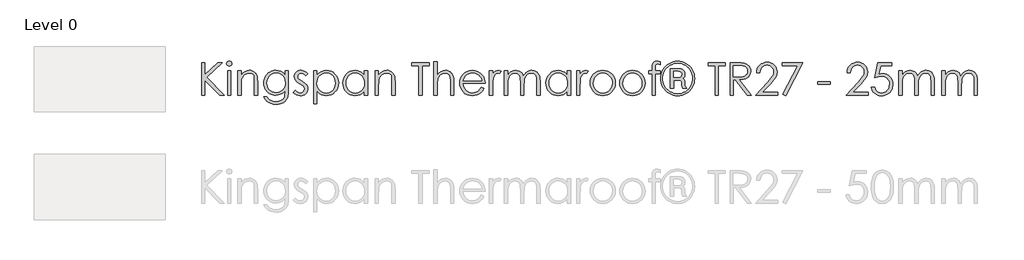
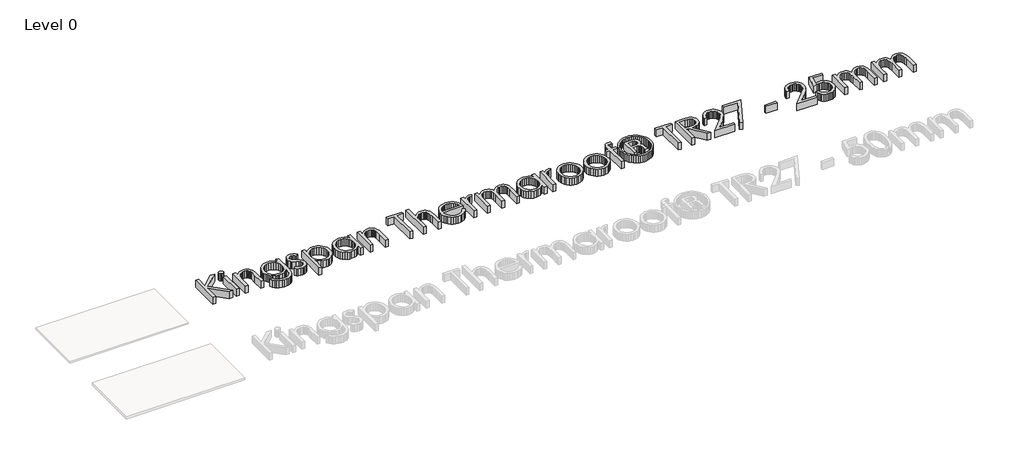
# One storey, part 12 of 12: 1 proxy.
"""IFC4 building model written with IfcOpenShell, lengths in millimetres."""

import ifcopenshell
import ifcopenshell.guid

model = None  # the IFC model being written
_history = None  # IfcOwnerHistory: only IFC2X3 demands one
_inside = {}  # id of a spatial element -> (the spatial element, [elements in it])
_under = {}  # id of a project, library or spatial element -> (it, [spatial elements below it])
_declared = {}  # id of a project -> (the project, [libraries it declares])
_typed = {}  # id of a type object -> (the type object, [elements of that type])
_made_of = {}  # id of a material, layer set ... -> (it, [elements and type objects made of it])


def new_model(schema):
    """Start an empty IFC model of exactly this schema.

    Asked for "IFC4X3", IfcOpenShell would pick the latest addendum, in which some entities
    have other attributes; the version numbers below select the first issue.
    IFC2X3 requires an IfcOwnerHistory on every rooted entity: one is made here for all.
    """
    global model, _history
    if schema == "IFC4X3":
        model = ifcopenshell.file(schema_version=(4, 3, 0, 0))
    else:
        model = ifcopenshell.file(schema=schema)
    _inside.clear()
    _under.clear()
    _declared.clear()
    _typed.clear()
    _made_of.clear()
    _history = None
    if model.schema == "IFC2X3":
        org = make("IfcOrganization", Name="unknown")
        user = make(
            "IfcPersonAndOrganization",
            ThePerson=make("IfcPerson", FamilyName="unknown"),
            TheOrganization=org,
        )
        app = make(
            "IfcApplication",
            ApplicationDeveloper=org,
            Version="unknown",
            ApplicationFullName="unknown",
            ApplicationIdentifier="unknown",
        )
        _history = make(
            "IfcOwnerHistory",
            OwningUser=user,
            OwningApplication=app,
            ChangeAction="ADDED",
            CreationDate=0,
        )
    return model


def make(cls, **values):
    """One entity of the class cls with the attributes given. An attribute that is None is left unset."""
    return model.create_entity(
        cls, **{name: value for name, value in values.items() if value is not None}
    )


def rooted(cls, **values):
    """An entity with a GlobalId (a new one), such as an element, a storey or a relation."""
    return make(cls, GlobalId=ifcopenshell.guid.new(), OwnerHistory=_history, **values)


def si_unit(unit_type, name, prefix=None):
    """IfcSIUnit, for example si_unit("LENGTHUNIT", "METRE", prefix="MILLI")."""
    return make("IfcSIUnit", UnitType=unit_type, Prefix=prefix, Name=name)


def assignment(units):
    """IfcUnitAssignment: the units of a project."""
    return None if units is None else make("IfcUnitAssignment", Units=units)


def point(xyz):
    """IfcCartesianPoint."""
    return None if xyz is None else make("IfcCartesianPoint", Coordinates=xyz)


def direction(xyz):
    """IfcDirection."""
    return None if xyz is None else make("IfcDirection", DirectionRatios=xyz)


def frame(location, z_axis=None, x_axis=None):
    """IfcAxis2Placement3D, a coordinate frame: its origin and axes. An axis left out is left unset."""
    return make(
        "IfcAxis2Placement3D",
        Location=point(location),
        Axis=direction(z_axis),
        RefDirection=direction(x_axis),
    )


def origin():
    """The frame at (0, 0, 0) with its axes left unset."""
    return frame((0.0, 0.0, 0.0))


def origin_with_axes():
    """The frame at (0, 0, 0) with the z axis (0, 0, 1) and the x axis (1, 0, 0) written out."""
    return frame((0.0, 0.0, 0.0), z_axis=(0.0, 0.0, 1.0), x_axis=(1.0, 0.0, 0.0))


def place(relative_to, where):
    """IfcLocalPlacement: puts the frame where relative to a parent placement (None: the world)."""
    return make(
        "IfcLocalPlacement", PlacementRelTo=relative_to, RelativePlacement=where
    )


def context(
    kind, dimensions, precision=None, world=None, true_north=None, identifier=None
):
    """IfcGeometricRepresentationContext, for example the 3D "Model" context."""
    return make(
        "IfcGeometricRepresentationContext",
        ContextIdentifier=identifier,
        ContextType=kind,
        CoordinateSpaceDimension=dimensions,
        Precision=precision,
        WorldCoordinateSystem=world,
        TrueNorth=true_north,
    )


def project(units=None, contexts=None):
    """IfcProject with its units and contexts."""
    return rooted(
        "IfcProject",
        Name="project",
        RepresentationContexts=contexts,
        UnitsInContext=assignment(units),
    )


def spatial(cls, under=None, at=None, **own):
    """A site, building, storey or space (cls), placed at a placement, below another one or the project."""
    s = rooted(cls, ObjectPlacement=at, **own)
    if under is not None:
        _under.setdefault(under.id(), (under, []))[1].append(s)
    return s


def polyline(points):
    """IfcPolyline through the points."""
    return make("IfcPolyline", Points=[point(p) for p in points])


def outline(outer, holes=None, kind="AREA"):
    """IfcArbitraryClosedProfileDef: a profile drawn as a closed curve; with holes, ...WithVoids."""
    if holes is None:
        return make("IfcArbitraryClosedProfileDef", ProfileType=kind, OuterCurve=outer)
    return make(
        "IfcArbitraryProfileDefWithVoids",
        ProfileType=kind,
        OuterCurve=outer,
        InnerCurves=holes,
    )


def extrude(swept, where, along, depth):
    """IfcExtrudedAreaSolid: the profile swept, set in the frame where, extruded along a direction by depth."""
    return make(
        "IfcExtrudedAreaSolid",
        SweptArea=swept,
        Position=where,
        ExtrudedDirection=direction(along),
        Depth=depth,
    )


def shape(context_of_items, identifier, shape_type, items):
    """IfcShapeRepresentation: the items that make up one representation, for example the "Body"."""
    return make(
        "IfcShapeRepresentation",
        ContextOfItems=context_of_items,
        RepresentationIdentifier=identifier,
        RepresentationType=shape_type,
        Items=items,
    )


def made_of(thing, what):
    """Note that an element or type object is made of a material, layer set ...; save() writes the relation."""
    if what is not None:
        _made_of.setdefault(what.id(), (what, []))[1].append(thing)
    return thing


def element(
    cls,
    number,
    at=None,
    inside=None,
    cuts=None,
    type_object=None,
    material=None,
    context=None,
    identifier="Body",
    shape_type=None,
    held_by="IfcProductDefinitionShape",
    body=None,
    shapes=None,
    **own,
):
    """One element of the class cls, such as IfcWall. Its Tag is "e" and its number.

    at: its placement. inside: the storey or other place that contains it. cuts: it is an
    opening in that element (IfcRelVoidsElement). A single representation is given by context,
    identifier, shape_type and body (its items); several are given by shapes. held_by: the class
    of the entity that holds the representations. save() writes the other relations.
    """
    e = rooted(cls, Tag="e%d" % number, ObjectPlacement=at, **own)
    if body is not None:
        shapes = [shape(context, identifier, shape_type, body)]
    if shapes is not None:
        e.Representation = make(held_by, Representations=shapes)
    if inside is not None:
        _inside.setdefault(inside.id(), (inside, []))[1].append(e)
    if cuts is not None:
        rooted(
            "IfcRelVoidsElement", RelatingBuildingElement=cuts, RelatedOpeningElement=e
        )
    if type_object is not None:
        _typed.setdefault(type_object.id(), (type_object, []))[1].append(e)
    return made_of(e, material)


def aggregate(whole, parts):
    """IfcRelAggregates: a whole, such as a stair, and the parts it consists of."""
    return rooted("IfcRelAggregates", RelatingObject=whole, RelatedObjects=parts)


def save(model, path):
    """Write the relations noted so far, then the file.

    IfcRelAggregates (storeys below a building ...), IfcRelContainedInSpatialStructure (elements
    in a storey), IfcRelDefinesByType, IfcRelAssociatesMaterial and IfcRelDeclares: one each for
    every whole, place, type object, material and project.
    """
    for whole, parts in _under.values():
        aggregate(whole, parts)
    for where, things in _inside.values():
        rooted(
            "IfcRelContainedInSpatialStructure",
            RelatedElements=things,
            RelatingStructure=where,
        )
    for kind, things in _typed.values():
        rooted("IfcRelDefinesByType", RelatedObjects=things, RelatingType=kind)
    for what, things in _made_of.values():
        rooted("IfcRelAssociatesMaterial", RelatedObjects=things, RelatingMaterial=what)
    for by, libraries in _declared.values():
        rooted("IfcRelDeclares", RelatingContext=by, RelatedDefinitions=libraries)
    model.write(path)


model = new_model("IFC4")

# Units and contexts
model_context = context("Model", 3, world=origin())
ifc_project = project(units=[si_unit("LENGTHUNIT", "METRE", prefix="MILLI")], contexts=[model_context])

# Site, building, storey
site = spatial("IfcSite", under=ifc_project)
building = spatial("IfcBuilding", under=site)
storey = spatial("IfcBuildingStorey", under=building, Name="Level 0", Elevation=0.0)

# Proxy
placement = place(None, origin())
element("IfcBuildingElementProxy", 1, Name="600mm KI_CenturyGothic", ObjectType="600mm KI_CenturyGothic", at=placement, inside=storey, context=model_context, shape_type="SweptSolid", body=[
    extrude(outline(polyline([(-3852.2663848, 5900.8965983), (-3792.944575, 5900.8965983), (-3792.944575, 5681.683973), (-3555.1938841, 5900.8965983), (-3471.6181051, 5900.8965983), (-3760.9664119, 5633.9484541), (-3441.9572002, 5307.6785001), (-3520.8984627, 5307.6785001), (-3792.944575, 5585.9039675), (-3792.944575, 5307.6785001), (-3852.2663848, 5307.6785001), (-3852.2663848, 5900.8965983)])), origin_with_axes(), (0.0, 0.0, 1.0), 150.0),
    extrude(outline(polyline([(-3348.1854852, 5930.5575033), (-3329.145347, 5927.2747208), (-3313.1176445, 5917.4263735), (-3302.226531, 5902.9821307), (-3298.5961598, 5885.911662), (-3302.226531, 5869.0729191), (-3313.1176445, 5854.7059183), (-3329.145347, 5844.857571), (-3348.1854852, 5841.5747885), (-3366.9938975, 5844.857571), (-3382.9443581, 5854.7059183), (-3393.8354717, 5869.0729191), (-3397.4658428, 5885.911662), (-3393.8354717, 5902.9821307), (-3382.9443581, 5917.4263735), (-3366.9938975, 5927.2747208), (-3348.1854852, 5930.5575033)])), origin_with_axes(), (0.0, 0.0, 1.0), 150.0),
    extrude(outline(polyline([(-3377.6919062, 5752.5920738), (-3318.3700964, 5752.5920738), (-3318.3700964, 5307.6785001), (-3377.6919062, 5307.6785001), (-3377.6919062, 5752.5920738)])), origin_with_axes(), (0.0, 0.0, 1.0), 150.0),
    extrude(outline(polyline([(-3189.8395084, 5752.5920738), (-3130.5176986, 5752.5920738), (-3130.5176986, 5673.4963274), (-3096.9946967, 5713.0055796), (-3060.0730495, 5740.696815), (-3019.7141359, 5757.0334853), (-2975.879335, 5762.4790421), (-2953.4357238, 5760.9004099), (-2932.2955704, 5756.1645135), (-2912.4588747, 5748.2713528), (-2893.9256368, 5737.2209277), (-2877.212412, 5723.4960006), (-2862.835756, 5707.5793333), (-2841.0921499, 5669.1707787), (-2833.6238199, 5644.7912914), (-2828.2892984, 5614.4448643), (-2824.0216812, 5535.8511905), (-2824.0216812, 5307.6785001), (-2883.343491, 5307.6785001), (-2883.343491, 5520.8662542), (-2883.343491, 5623.907002), (-2884.7290183, 5644.7043943), (-2889.8125035, 5662.7596977), (-2898.2849788, 5678.0729123), (-2910.1464442, 5690.644038), (-2924.7403432, 5700.4441091), (-2941.4101193, 5707.4441599), (-2980.977303, 5713.0442006), (-3005.3471351, 5710.8862539), (-3028.4038541, 5704.4124138), (-3050.1474602, 5693.6226803), (-3070.5779533, 5678.5170534), (-3088.6622225, 5660.2348518), (-3103.3671568, 5639.915394), (-3114.6927562, 5617.55868), (-3122.6390208, 5593.1647099), (-3128.5480292, 5546.0857475), (-3130.5176986, 5471.5858965), (-3130.5176986, 5307.6785001), (-3189.8395084, 5307.6785001), (-3189.8395084, 5752.5920738)])), origin_with_axes(), (0.0, 0.0, 1.0), 150.0),
    extrude(outline(polyline([(-2319.7862977, 5752.5920738), (-2260.4644879, 5752.5920738), (-2260.4644879, 5401.604699), (-2264.5196897, 5321.3503235), (-2269.588692, 5290.5500999), (-2276.6852953, 5265.9678526), (-2289.9371156, 5237.3545415), (-2307.2924139, 5212.2267729), (-2328.7511904, 5190.5845469), (-2354.3134448, 5172.4278634), (-2383.3226209, 5158.0656902), (-2415.122162, 5147.8069951), (-2449.7120682, 5141.651778), (-2487.0923395, 5139.6000389), (-2541.0458345, 5143.6166198), (-2589.206184, 5155.6663624), (-2630.260275, 5174.4940853), (-2662.8949946, 5198.8446068), (-2690.2000204, 5232.1938144), (-2715.2650299, 5278.0175952), (-2655.94322, 5278.0175952), (-2642.4355358, 5256.848476), (-2627.0933555, 5238.6048954), (-2609.9166791, 5223.2868532), (-2590.9055067, 5210.8943494), (-2569.7894914, 5201.3308318), (-2546.2982864, 5194.4997477), (-2492.1903075, 5189.0348805), (-2438.5071593, 5194.3645743), (-2415.083541, 5201.0266916), (-2393.93856, 5210.3536559), (-2359.6624492, 5234.3952097), (-2336.8567664, 5263.8823202), (-2329.3884364, 5282.5217658), (-2324.0539149, 5306.2302137), (-2319.7862977, 5368.8541165), (-2319.7862977, 5391.5632468), (-2354.757586, 5355.7809182), (-2396.6420279, 5329.3834852), (-2443.392712, 5313.1047464), (-2492.9627269, 5307.6785001), (-2522.4063889, 5309.5757553), (-2550.9521133, 5315.2675207), (-2578.5999001, 5324.7537964), (-2605.3497494, 5338.0345825), (-2630.1540674, 5354.5257366), (-2651.9652601, 5373.6431168), (-2670.7833277, 5395.3867228), (-2686.6082702, 5419.7565549), (-2699.1456025, 5446.0719183), (-2708.1008399, 5473.6521184), (-2713.4739824, 5502.4971553), (-2715.2650299, 5532.607029), (-2713.3967404, 5562.8955247), (-2707.7918722, 5592.1219437), (-2698.4504251, 5620.286286), (-2685.3723991, 5647.3885517), (-2668.9971079, 5672.5742517), (-2649.7638648, 5694.9888971), (-2627.67267, 5714.632488), (-2602.7235235, 5731.5050242), (-2575.9833294, 5745.056157), (-2548.5189922, 5754.7355376), (-2520.3305117, 5760.543166), (-2491.4178881, 5762.4790421), (-2444.5320306, 5757.5355579), (-2400.8903346, 5742.7051055), (-2359.6045177, 5716.1338782), (-2319.7862977, 5675.9680694), (-2319.7862977, 5752.5920738)]), holes=[polyline([(-2484.1571458, 5713.0442006), (-2529.0154023, 5707.0193293), (-2570.5908765, 5688.9447153), (-2606.2187212, 5660.2300242), (-2633.2340897, 5622.2849212), (-2650.2659375, 5578.0059792), (-2655.94322, 5530.2897708), (-2653.0080263, 5494.3770964), (-2644.2024452, 5461.7182387), (-2629.5264766, 5432.3131977), (-2608.9801206, 5406.1619734), (-2583.7606272, 5384.703197), (-2555.0652466, 5369.3754996), (-2522.8939786, 5360.1788811), (-2487.2468234, 5357.1133416), (-2451.3244937, 5360.154743), (-2419.1001219, 5369.2789472), (-2390.573708, 5384.4859541), (-2365.7452519, 5405.7757637), (-2345.6382095, 5432.0187128), (-2331.2760363, 5462.0851379), (-2322.6587323, 5495.975039), (-2319.7862977, 5533.6884162), (-2325.0773706, 5582.3894593), (-2340.9505892, 5625.6063246), (-2366.4983608, 5661.8327944), (-2400.8130926, 5689.5626508), (-2440.9982119, 5707.1738131), (-2484.1571458, 5713.0442006)])]), origin_with_axes(), (0.0, 0.0, 1.0), 150.0),
    extrude(outline(polyline([(-1904.5336289, 5701.3034257), (-1940.9918246, 5663.609359), (-1962.9575012, 5685.2371022), (-1984.6721416, 5700.6854902), (-2006.1357456, 5709.954523), (-2027.3483133, 5713.0442006), (-2052.181597, 5708.3710632), (-2073.2300256, 5694.3516511), (-2087.5970264, 5674.1142629), (-2092.3860267, 5650.787197), (-2088.4466878, 5629.2366958), (-2076.628671, 5608.7675817), (-2052.0657341, 5586.599145), (-2010.2006027, 5560.877579), (-1958.3326401, 5528.0111336), (-1939.8428507, 5512.1861912), (-1926.315856, 5496.7667689), (-1909.9791857, 5464.0934284), (-1904.5336289, 5427.5579908), (-1906.9474396, 5401.4115941), (-1914.1888714, 5377.3507299), (-1926.2579245, 5355.375398), (-1943.1545989, 5335.4855985), (-1963.6719892, 5318.9944443), (-1986.6031901, 5307.2150485), (-2011.9482016, 5300.147411), (-2039.7070237, 5297.7915318), (-2077.4397114, 5301.6729393), (-2113.3958344, 5313.3171617), (-2145.4512394, 5331.7972958), (-2171.4817731, 5356.1864383), (-2135.7959969, 5396.6612148), (-2114.0041146, 5375.0334717), (-2091.5749863, 5359.5850837), (-2068.5086121, 5350.3160509), (-2044.8049918, 5347.2263733), (-2013.637869, 5352.8650349), (-1987.4914724, 5369.7810198), (-1969.7644472, 5394.3439566), (-1963.8554388, 5422.9234744), (-1967.7561567, 5446.7139919), (-1979.4583106, 5467.7237995), (-2005.0253927, 5489.4287846), (-2050.2119275, 5516.2317378), (-2099.762632, 5546.8967879), (-2117.441381, 5562.0555186), (-2130.3890611, 5577.0983864), (-2146.3781427, 5609.2310334), (-2151.7078365, 5645.689229), (-2149.5305794, 5669.7356104), (-2142.9988078, 5691.6674937), (-2132.1125219, 5711.4848789), (-2116.8717217, 5729.187766), (-2098.309518, 5743.7526993), (-2077.4590218, 5754.1562231), (-2054.3202332, 5760.3983373), (-2028.8931521, 5762.4790421), (-1997.9481, 5758.6555661), (-1966.9064954, 5747.185138), (-1935.7683384, 5728.0677579), (-1904.5336289, 5701.3034257)])), origin_with_axes(), (0.0, 0.0, 1.0), 150.0),
    extrude(outline(polyline([(-1795.7769776, 5752.5920738), (-1736.4551678, 5752.5920738), (-1736.4551678, 5671.4880369), (-1700.9238754, 5711.7310876), (-1660.4490989, 5740.0788795), (-1614.9922173, 5756.8790014), (-1564.5146096, 5762.4790421), (-1520.0618732, 5758.2403906), (-1478.9305402, 5745.5244363), (-1441.1206107, 5724.331179), (-1406.6320845, 5694.6606189), (-1377.9077381, 5659.0231189), (-1357.3903478, 5619.929042), (-1345.0799137, 5577.3783884), (-1340.9764356, 5531.371158), (-1345.0412927, 5484.4708176), (-1357.235864, 5441.2491246), (-1377.5601494, 5401.706079), (-1406.014149, 5365.8416808), (-1440.2130179, 5336.0697406), (-1477.7719111, 5314.8040691), (-1518.6908288, 5302.0446661), (-1562.9697708, 5297.7915318), (-1612.6170277, 5303.256399), (-1658.0545988, 5319.6510008), (-1699.3211052, 5346.8980951), (-1736.4551678, 5384.92044), (-1736.4551678, 5149.4870072), (-1795.7769776, 5149.4870072), (-1795.7769776, 5752.5920738)]), holes=[polyline([(-1568.5311905, 5713.0442006), (-1602.5852307, 5709.7469353), (-1633.8392507, 5699.8551393), (-1662.2932503, 5683.3688128), (-1687.9472295, 5660.2879556), (-1709.1694525, 5632.3022353), (-1724.3281832, 5601.1013192), (-1733.4234216, 5566.6852074), (-1736.4551678, 5529.0538998), (-1731.048232, 5480.1983728), (-1714.8274246, 5436.5180558), (-1688.5265441, 5399.6736505), (-1652.8793888, 5371.3258586), (-1611.4390881, 5353.2512446), (-1567.7587711, 5347.2263733), (-1525.0632888, 5353.2898656), (-1485.0326535, 5371.4803424), (-1450.2544701, 5400.5812433), (-1423.3163435, 5439.3760076), (-1406.05277, 5484.0411593), (-1400.2982454, 5530.7532225), (-1405.9948385, 5577.6970114), (-1423.0846177, 5622.1304373), (-1449.8103289, 5660.4810605), (-1484.414718, 5689.1764411), (-1524.7157001, 5707.0772607), (-1568.5311905, 5713.0442006)])]), origin_with_axes(), (0.0, 0.0, 1.0), 150.0),
    extrude(outline(polyline([(-807.0801472, 5752.5920738), (-807.0801472, 5307.6785001), (-866.401957, 5307.6785001), (-866.401957, 5383.5300851), (-903.4780882, 5345.6815345), (-944.8797679, 5318.9558233), (-990.4525125, 5303.0826047), (-1040.0418379, 5297.7915318), (-1084.3159523, 5302.0446661), (-1125.2203871, 5314.8040691), (-1162.7551422, 5336.0697406), (-1196.9202178, 5365.8416808), (-1225.340424, 5401.706079), (-1245.6405713, 5441.2491246), (-1257.8206597, 5484.4708176), (-1261.8806892, 5531.371158), (-1257.7820388, 5577.3783884), (-1245.4860875, 5619.929042), (-1224.9928353, 5659.0231189), (-1196.3022822, 5694.6606189), (-1161.8475494, 5724.331179), (-1124.061758, 5745.5244363), (-1082.9449079, 5758.2403906), (-1038.4969991, 5762.4790421), (-987.7490446, 5756.8790014), (-942.0990581, 5740.0788795), (-921.2051134, 5727.3918909), (-901.6242816, 5711.7310876), (-866.401957, 5671.4880369), (-866.401957, 5752.5920738), (-807.0801472, 5752.5920738)]), holes=[polyline([(-1034.3259343, 5713.0442006), (-1078.1414247, 5707.0772607), (-1118.4424068, 5689.1764411), (-1153.0467959, 5660.4810605), (-1179.7725071, 5622.1304373), (-1196.8622863, 5577.6970114), (-1202.5588794, 5530.7532225), (-1196.8043548, 5484.0411593), (-1179.5407813, 5439.3760076), (-1152.6026548, 5400.5812433), (-1117.8244713, 5371.4803424), (-1077.6779731, 5353.2898656), (-1034.6349021, 5347.2263733), (-991.0125165, 5353.2512446), (-949.7460102, 5371.3258586), (-914.2726493, 5399.6736505), (-888.0297002, 5436.5180558), (-871.8088928, 5480.1983728), (-866.401957, 5529.0538998), (-869.4337032, 5566.6852074), (-878.5289416, 5601.1013192), (-893.6876723, 5632.3022353), (-914.9098953, 5660.2879556), (-940.5638746, 5683.3688128), (-969.0178742, 5699.8551393), (-1000.2718941, 5709.7469353), (-1034.3259343, 5713.0442006)])]), origin_with_axes(), (0.0, 0.0, 1.0), 150.0),
    extrude(outline(polyline([(-668.662591, 5752.5920738), (-609.3407811, 5752.5920738), (-609.3407811, 5673.4963274), (-575.8177792, 5713.0055796), (-538.896132, 5740.696815), (-498.5372184, 5757.0334853), (-454.7024175, 5762.4790421), (-432.2588064, 5760.9004099), (-411.1186529, 5756.1645135), (-391.2819572, 5748.2713528), (-372.7487193, 5737.2209277), (-356.0354946, 5723.4960006), (-341.6588385, 5707.5793333), (-319.9152324, 5669.1707787), (-312.4469024, 5644.7912914), (-307.1123809, 5614.4448643), (-302.8447637, 5535.8511905), (-302.8447637, 5307.6785001), (-362.1665735, 5307.6785001), (-362.1665735, 5520.8662542), (-362.1665735, 5623.907002), (-363.5521008, 5644.7043943), (-368.635586, 5662.7596977), (-377.1080613, 5678.0729123), (-388.9695267, 5690.644038), (-403.5634257, 5700.4441091), (-420.2332018, 5707.4441599), (-459.8003855, 5713.0442006), (-484.1702176, 5710.8862539), (-507.2269366, 5704.4124138), (-528.9705427, 5693.6226803), (-549.4010358, 5678.5170534), (-567.485305, 5660.2348518), (-582.1902393, 5639.915394), (-593.5158387, 5617.55868), (-601.4621033, 5593.1647099), (-607.3711117, 5546.0857475), (-609.3407811, 5471.5858965), (-609.3407811, 5307.6785001), (-668.662591, 5307.6785001), (-668.662591, 5752.5920738)])), origin_with_axes(), (0.0, 0.0, 1.0), 150.0),
    extrude(outline(polyline([(3.6512537, 5851.4617568), (3.6512537, 5900.8965983), (320.0342394, 5900.8965983), (320.0342394, 5851.4617568), (191.5036515, 5851.4617568), (191.5036515, 5307.6785001), (132.1818417, 5307.6785001), (132.1818417, 5851.4617568), (3.6512537, 5851.4617568)])), origin_with_axes(), (0.0, 0.0, 1.0), 150.0),
    extrude(outline(polyline([(409.0169542, 5920.6705349), (468.338764, 5920.6705349), (468.338764, 5671.9514886), (502.1128022, 5711.6538456), (539.1696229, 5739.9243956), (579.470605, 5756.8403805), (622.9771276, 5762.4790421), (645.4207388, 5760.9004099), (666.5608922, 5756.1645135), (686.3975879, 5748.2713528), (704.9308258, 5737.2209277), (721.6440506, 5723.5104834), (736.0207066, 5707.6372648), (757.7643127, 5669.4025045), (765.2326428, 5645.0954316), (770.5671642, 5614.7345216), (774.8347814, 5535.8511905), (774.8347814, 5307.6785001), (715.5129716, 5307.6785001), (715.5129716, 5520.8662542), (714.1226167, 5585.247411), (709.9515519, 5623.907002), (696.4342124, 5662.7596977), (686.7210385, 5678.0729123), (675.0381951, 5690.644038), (661.3953375, 5700.4441091), (645.8021209, 5707.4441599), (608.7646107, 5713.0442006), (585.8961689, 5710.8862539), (564.2539428, 5704.4124138), (543.8379326, 5693.6226803), (524.6481382, 5678.5170534), (507.659739, 5660.2348518), (493.8479146, 5639.915394), (483.212665, 5617.55868), (475.7539902, 5593.1647099), (470.1925705, 5546.3174733), (468.338764, 5471.5858965), (468.338764, 5307.6785001), (409.0169542, 5307.6785001), (409.0169542, 5920.6705349)])), origin_with_axes(), (0.0, 0.0, 1.0), 150.0),
    extrude(outline(polyline([(1280.6150037, 5455.9830247), (1328.5050064, 5430.8021523), (1302.8799929, 5388.9177104), (1273.5859872, 5355.9547125), (1240.5071264, 5330.8703926), (1203.5275477, 5312.6219843), (1162.048626, 5301.4991449), (1115.4717363, 5297.7915318), (1063.9803281, 5302.2232881), (1018.4172388, 5315.518557), (978.7824684, 5337.6773385), (945.0760169, 5368.6996326), (918.1765113, 5405.3026569), (898.9625788, 5444.2036288), (887.4342193, 5485.4025485), (883.5914328, 5528.8994159), (886.8742152, 5569.7797126), (896.7225625, 5608.381372), (913.1364748, 5644.7043943), (936.1159519, 5678.7487793), (972.3038007, 5715.3807692), (1014.1303111, 5741.5464764), (1061.5954832, 5757.2459007), (1114.6993169, 5762.4790421), (1169.3479893, 5757.1107273), (1218.2035163, 5741.0057828), (1261.2658978, 5714.1642087), (1298.5351338, 5676.5860049), (1320.008393, 5644.414737), (1335.456781, 5608.458614), (1344.8802977, 5568.7176359), (1348.278943, 5525.1918028), (942.9132426, 5525.1918028), (946.6498214, 5487.9370497), (956.1602353, 5454.1871496), (971.4444841, 5423.9421025), (992.502568, 5397.2019084), (1017.86689, 5375.3376118), (1046.0698533, 5359.7202571), (1077.1114579, 5350.3498443), (1110.9917037, 5347.2263733), (1144.5147056, 5350.238809), (1177.1108043, 5359.2761159), (1206.8489511, 5373.3148385), (1231.7980977, 5391.331521), (1255.2796474, 5417.4972281), (1280.6150037, 5455.9830247)]), holes=[polyline([(1288.9571332, 5574.6266443), (1274.5322009, 5617.1483322), (1254.7389538, 5650.1692615), (1228.6311782, 5675.6977226), (1195.2626601, 5695.742006), (1157.3175572, 5708.7186519), (1117.4800267, 5713.0442006), (1085.0577224, 5710.3310774), (1054.9912973, 5702.191708), (1027.2807514, 5688.6260923), (1001.9260846, 5669.6342304), (985.3866543, 5651.820308), (970.9906877, 5630.0477362), (958.738185, 5604.316515), (948.6291461, 5574.6266443), (1288.9571332, 5574.6266443)])]), origin_with_axes(), (0.0, 0.0, 1.0), 150.0),
    extrude(outline(polyline([(1427.3746895, 5752.5920738), (1486.6964993, 5752.5920738), (1486.6964993, 5688.1722959), (1512.2442709, 5721.2125357), (1539.1437765, 5744.3271862), (1567.317774, 5757.9410781), (1596.6890217, 5762.4790421), (1620.0160875, 5758.694187), (1644.8879922, 5747.3396219), (1615.3815711, 5705.3200066), (1586.8020534, 5713.0442006), (1560.3853099, 5707.0965712), (1534.8954698, 5689.2536831), (1512.8428959, 5658.8976007), (1496.7379515, 5615.4103886), (1489.2068623, 5557.2858288), (1486.6964993, 5459.8451217), (1486.6964993, 5307.6785001), (1427.3746895, 5307.6785001), (1427.3746895, 5752.5920738)])), origin_with_axes(), (0.0, 0.0, 1.0), 150.0),
    extrude(outline(polyline([(1704.209802, 5752.5920738), (1763.5316118, 5752.5920738), (1763.5316118, 5676.4315211), (1793.1152748, 5712.9283377), (1823.4713571, 5738.0705891), (1866.8813274, 5756.3769288), (1912.4540719, 5762.4790421), (1943.2929164, 5759.331433), (1972.4710592, 5749.8886059), (1998.2312461, 5735.2126373), (2018.8162231, 5716.365604), (2035.5970345, 5690.9336953), (2049.9447249, 5656.5031006), (2064.7220735, 5680.9018983), (2081.247021, 5702.191708), (2099.5195674, 5720.3725296), (2119.5397127, 5735.4443631), (2140.83435, 5747.2720352), (2162.9303724, 5755.7203723), (2185.82778, 5760.7893747), (2209.5265726, 5762.4790421), (2251.8551557, 5756.6665861), (2271.0497777, 5749.4010161), (2288.9312868, 5739.2292182), (2305.0458865, 5726.46016), (2318.9397805, 5711.4028093), (2340.065451, 5674.4232306), (2347.3648143, 5651.0478886), (2352.5786453, 5622.4780261), (2356.74971, 5549.7547397), (2356.74971, 5307.6785001), (2297.4279002, 5307.6785001), (2297.4279002, 5553.3078689), (2294.9754686, 5614.4255538), (2287.6181738, 5652.8727294), (2274.3132497, 5677.3391139), (2254.01793, 5696.5144254), (2227.9487753, 5708.9117568), (2197.3223461, 5713.0442006), (2177.6739277, 5711.4945341), (2158.894481, 5706.8455349), (2123.9425033, 5688.2495379), (2095.2085016, 5659.3031209), (2075.434565, 5622.0531954), (2068.743482, 5597.8957787), (2063.9641369, 5566.8252084), (2060.1406609, 5483.9446069), (2060.1406609, 5307.6785001), (2000.8188511, 5307.6785001), (2000.8188511, 5538.0139648), (1998.4050405, 5606.469634), (1991.1636086, 5648.7016647), (1977.9166159, 5674.9446137), (1957.4861228, 5695.4330383), (1931.1659318, 5708.64141), (1900.2498454, 5713.0442006), (1863.3088876, 5707.0000188), (1828.801051, 5688.8674734), (1799.8353235, 5660.500371), (1779.5206934, 5623.7525181), (1767.5288822, 5571.9231764), (1763.5316118, 5498.3116077), (1763.5316118, 5307.6785001), (1704.209802, 5307.6785001), (1704.209802, 5752.5920738)])), origin_with_axes(), (0.0, 0.0, 1.0), 150.0),
    extrude(outline(polyline([(2920.3069034, 5752.5920738), (2920.3069034, 5307.6785001), (2860.9850935, 5307.6785001), (2860.9850935, 5383.5300851), (2823.9089624, 5345.6815345), (2782.5072826, 5318.9558233), (2736.9345381, 5303.0826047), (2687.3452127, 5297.7915318), (2643.0710983, 5302.0446661), (2602.1666635, 5314.8040691), (2564.6319083, 5336.0697406), (2530.4668328, 5365.8416808), (2502.0466266, 5401.706079), (2481.7464792, 5441.2491246), (2469.5663908, 5484.4708176), (2465.5063614, 5531.371158), (2469.6050118, 5577.3783884), (2481.9009631, 5619.929042), (2502.3942153, 5659.0231189), (2531.0847683, 5694.6606189), (2565.5395011, 5724.331179), (2603.3252926, 5745.5244363), (2644.4421427, 5758.2403906), (2688.8900515, 5762.4790421), (2739.638006, 5756.8790014), (2785.2879925, 5740.0788795), (2806.1819372, 5727.3918909), (2825.7627689, 5711.7310876), (2860.9850935, 5671.4880369), (2860.9850935, 5752.5920738), (2920.3069034, 5752.5920738)]), holes=[polyline([(2693.0611162, 5713.0442006), (2649.2456259, 5707.0772607), (2608.9446437, 5689.1764411), (2574.3402547, 5660.4810605), (2547.6145435, 5622.1304373), (2530.5247643, 5577.6970114), (2524.8281712, 5530.7532225), (2530.5826957, 5484.0411593), (2547.8462693, 5439.3760076), (2574.7843958, 5400.5812433), (2609.5625792, 5371.4803424), (2649.7090775, 5353.2898656), (2692.7521485, 5347.2263733), (2736.374534, 5353.2512446), (2777.6410404, 5371.3258586), (2813.1144013, 5399.6736505), (2839.3573504, 5436.5180558), (2855.5781577, 5480.1983728), (2860.9850935, 5529.0538998), (2857.9533474, 5566.6852074), (2848.858109, 5601.1013192), (2833.6993783, 5632.3022353), (2812.4771553, 5660.2879556), (2786.823176, 5683.3688128), (2758.3691764, 5699.8551393), (2727.1151565, 5709.7469353), (2693.0611162, 5713.0442006)])]), origin_with_axes(), (0.0, 0.0, 1.0), 150.0),
    extrude(outline(polyline([(3029.0635547, 5752.5920738), (3088.3853645, 5752.5920738), (3088.3853645, 5688.1722959), (3113.9331361, 5721.2125357), (3140.8326417, 5744.3271862), (3169.0066393, 5757.9410781), (3198.3778869, 5762.4790421), (3221.7049527, 5758.694187), (3246.5768574, 5747.3396219), (3217.0704364, 5705.3200066), (3188.4909186, 5713.0442006), (3162.0741752, 5707.0965712), (3136.584335, 5689.2536831), (3114.5317612, 5658.8976007), (3098.4268167, 5615.4103886), (3090.8957276, 5557.2858288), (3088.3853645, 5459.8451217), (3088.3853645, 5307.6785001), (3029.0635547, 5307.6785001), (3029.0635547, 5752.5920738)])), origin_with_axes(), (0.0, 0.0, 1.0), 150.0),
    extrude(outline(polyline([(3508.7360013, 5762.4790421), (3558.0453247, 5757.8541809), (3602.932547, 5743.9795975), (3643.3976682, 5720.8552917), (3679.4406884, 5688.4812637), (3706.340194, 5653.2492839), (3725.5541265, 5614.908316), (3737.0824861, 5573.45836), (3740.9252726, 5528.8994159), (3736.8604155, 5484.0846079), (3724.6658442, 5442.1760279), (3704.3415588, 5403.1736759), (3675.8875592, 5367.0775519), (3641.0514443, 5336.7649181), (3601.580813, 5315.1130368), (3557.4756654, 5302.1219081), (3508.7360013, 5297.7915318), (3459.8611639, 5302.1219081), (3415.6594638, 5315.1130368), (3376.130901, 5336.7649181), (3341.2754757, 5367.0775519), (3312.8214761, 5403.1736759), (3292.4971906, 5442.1760279), (3280.3026194, 5484.0846079), (3276.2377623, 5528.8994159), (3280.0805488, 5573.2652551), (3291.6089083, 5614.5993482), (3310.8228409, 5652.9016951), (3337.7223464, 5688.1722959), (3373.7846771, 5720.6814974), (3414.3077298, 5743.9023555), (3459.2915046, 5757.8348705), (3508.7360013, 5762.4790421)]), holes=[polyline([(3508.5815174, 5713.0442006), (3474.3054066, 5709.6696933), (3442.5396588, 5699.5461716), (3413.2842741, 5682.6736353), (3386.5392524, 5659.0520846), (3364.2356423, 5630.6415336), (3348.3044922, 5599.4019965), (3338.7458021, 5565.3334734), (3335.5595721, 5528.4359643), (3341.3720281, 5480.7004454), (3358.809396, 5436.3635719), (3386.1530427, 5398.5729529), (3421.6843351, 5370.4761972), (3463.2211882, 5353.0388293), (3508.5815174, 5347.2263733), (3553.9418466, 5353.0388293), (3595.4786998, 5370.4761972), (3631.0099921, 5398.5729529), (3658.3536389, 5436.3635719), (3675.7910068, 5480.7004454), (3681.6034628, 5528.4359643), (3678.4027499, 5565.3334734), (3668.8006112, 5599.4019965), (3652.7970468, 5630.6415336), (3630.3920566, 5659.0520846), (3603.5746206, 5682.6736353), (3574.3337188, 5699.5461716), (3542.669351, 5709.6696933), (3508.5815174, 5713.0442006)])]), origin_with_axes(), (0.0, 0.0, 1.0), 150.0),
    extrude(outline(polyline([(4052.519258, 5762.4790421), (4101.8285814, 5757.8541809), (4146.7158037, 5743.9795975), (4187.180925, 5720.8552917), (4223.2239452, 5688.4812637), (4250.1234507, 5653.2492839), (4269.3373833, 5614.908316), (4280.8657428, 5573.45836), (4284.7085293, 5528.8994159), (4280.6436722, 5484.0846079), (4268.4491009, 5442.1760279), (4248.1248155, 5403.1736759), (4219.6708159, 5367.0775519), (4184.834701, 5336.7649181), (4145.3640698, 5315.1130368), (4101.2589221, 5302.1219081), (4052.519258, 5297.7915318), (4003.6444206, 5302.1219081), (3959.4427205, 5315.1130368), (3919.9141578, 5336.7649181), (3885.0587324, 5367.0775519), (3856.6047328, 5403.1736759), (3836.2804474, 5442.1760279), (3824.0858761, 5484.0846079), (3820.021019, 5528.8994159), (3823.8638055, 5573.2652551), (3835.392165, 5614.5993482), (3854.6060976, 5652.9016951), (3881.5056031, 5688.1722959), (3917.5679338, 5720.6814974), (3958.0909865, 5743.9023555), (4003.0747613, 5757.8348705), (4052.519258, 5762.4790421)]), holes=[polyline([(4052.3647741, 5713.0442006), (4018.0886633, 5709.6696933), (3986.3229156, 5699.5461716), (3957.0675308, 5682.6736353), (3930.3225091, 5659.0520846), (3908.018899, 5630.6415336), (3892.0877489, 5599.4019965), (3882.5290589, 5565.3334734), (3879.3428288, 5528.4359643), (3885.1552848, 5480.7004454), (3902.5926527, 5436.3635719), (3929.9362994, 5398.5729529), (3965.4675918, 5370.4761972), (4007.004445, 5353.0388293), (4052.3647741, 5347.2263733), (4097.7251033, 5353.0388293), (4139.2619565, 5370.4761972), (4174.7932489, 5398.5729529), (4202.1368956, 5436.3635719), (4219.5742635, 5480.7004454), (4225.3867195, 5528.4359643), (4222.1860066, 5565.3334734), (4212.5838679, 5599.4019965), (4196.5803035, 5630.6415336), (4174.1753133, 5659.0520846), (4147.3578773, 5682.6736353), (4118.1169755, 5699.5461716), (4086.4526077, 5709.6696933), (4052.3647741, 5713.0442006)])]), origin_with_axes(), (0.0, 0.0, 1.0), 150.0),
    extrude(outline(polyline([(4561.5436418, 5919.28018), (4561.5436418, 5867.6825642), (4535.2813822, 5877.7626373), (4513.0357036, 5881.1226617), (4499.3059487, 5879.4426495), (4488.086557, 5874.402613), (4479.9761533, 5867.1804916), (4475.5733627, 5858.954225), (4473.0243787, 5812.3773352), (4473.0243787, 5752.5920738), (4561.5436418, 5752.5920738), (4561.5436418, 5703.1572323), (4472.8698948, 5703.1572323), (4472.8698948, 5307.6785001), (4413.2391172, 5307.6785001), (4413.2391172, 5703.1572323), (4353.9173074, 5703.1572323), (4353.9173074, 5752.5920738), (4413.2391172, 5752.5920738), (4413.2391172, 5820.1015292), (4415.3246496, 5859.9390597), (4421.5812467, 5886.4523556), (4432.8392595, 5904.3724856), (4449.9290387, 5918.4305187), (4472.000923, 5927.5257571), (4498.2052511, 5930.5575033), (4527.2482205, 5927.7381724), (4561.5436418, 5919.28018)])), origin_with_axes(), (0.0, 0.0, 1.0), 150.0),
    extrude(outline(polyline([(5194.3096132, 5614.792453), (5191.7075254, 5572.8500797), (5183.9012619, 5532.4525451), (5170.8908226, 5493.5998494), (5152.6762077, 5456.2919924), (5129.9284564, 5421.65381), (5103.3186081, 5390.8101379), (5072.8466628, 5363.7609761), (5038.5126205, 5340.5063246), (5001.5958009, 5321.8186027), (4963.3755235, 5308.47023), (4923.8517884, 5300.4612064), (4883.0245956, 5297.7915318), (4842.2649894, 5300.4467235), (4802.7895305, 5308.4122985), (4764.5982189, 5321.688257), (4727.6910545, 5340.2745987), (4693.3425293, 5363.4423531), (4662.8271355, 5390.4625492), (4636.1448729, 5421.335187), (4613.2957415, 5456.0602666), (4594.9797465, 5493.3632959), (4581.896893, 5531.969783), (4574.0471808, 5571.8797278), (4571.4306101, 5613.0931304), (4574.0471808, 5654.7603293), (4581.896893, 5695.10476), (4594.9797465, 5734.1264225), (4613.2957415, 5771.8253168), (4636.13039, 5806.8786747), (4662.769204, 5837.9637278), (4693.2121836, 5865.0804763), (4727.4593286, 5888.2289202), (4764.2940787, 5906.7476753), (4802.4998732, 5919.9753575), (4842.0767122, 5927.9119668), (4883.0245956, 5930.5575033), (4923.9531684, 5927.9264497), (4963.4720759, 5920.0332889), (5001.581318, 5906.8780211), (5038.2808947, 5888.460646), (5072.4025216, 5865.4135822), (5102.7779145, 5838.369248), (5129.4070733, 5807.3276434), (5152.289998, 5772.2887685), (5170.6735796, 5734.6671161), (5183.8047094, 5695.8771794), (5191.6833873, 5655.9189584), (5194.3096132, 5614.792453)]), holes=[polyline([(5154.76174, 5614.1745175), (5152.4782752, 5650.3189178), (5145.6278806, 5685.3722756), (5134.2105564, 5719.334591), (5118.2263025, 5752.2058641), (5098.3220201, 5782.8081551), (5075.1446105, 5809.9635246), (5048.6940737, 5833.6719725), (5018.9704097, 5853.9334989), (4987.0115571, 5870.1543063), (4953.8554544, 5881.7405973), (4919.5021017, 5888.6923718), (4883.9514988, 5891.00963), (4848.1353768, 5888.6923718), (4813.4489182, 5881.7405973), (4779.892123, 5870.1543063), (4747.4649911, 5853.9334989), (4717.3116688, 5833.6719725), (4690.5763024, 5809.9635246), (4667.2588918, 5782.8081551), (4647.359437, 5752.2058641), (4631.4427698, 5719.2863148), (4620.0737217, 5685.1791708), (4613.2522929, 5649.8844319), (4610.9784833, 5613.4020981), (4613.2522929, 5577.0935588), (4620.0737217, 5542.0112352), (4631.4427698, 5508.1551274), (4647.359437, 5475.5252355), (4667.268547, 5445.1932912), (4690.6149233, 5418.2310266), (4717.398566, 5394.6384415), (4747.619475, 5374.4155362), (4780.0948831, 5358.1947288), (4813.6420231, 5346.6084378), (4848.260895, 5339.6566632), (4883.9514988, 5337.339405), (4919.3234797, 5339.6711461), (4953.6044181, 5346.6663693), (4986.7943142, 5358.3250746), (5018.8931678, 5374.647262), (5048.7761433, 5394.9570645), (5075.3184049, 5418.5786153), (5098.5199526, 5445.5119142), (5118.3807864, 5475.7569613), (5134.2974536, 5508.3337494), (5145.6665016, 5542.2622715), (5152.4879304, 5577.5425275), (5154.76174, 5614.1745175)])]), origin_with_axes(), (0.0, 0.0, 1.0), 150.0),
    extrude(outline(polyline([(4749.3960396, 5792.139947), (4893.5294994, 5792.139947), (4936.9587801, 5789.5330315), (4966.2141648, 5781.7122851), (4986.3356901, 5767.9825303), (5002.3633927, 5747.6485896), (5012.848986, 5722.0428866), (5016.3441838, 5692.4978446), (5014.722103, 5667.2011093), (5009.8558608, 5645.689229), (4997.0336988, 5630.4339459), (4974.6335362, 5613.7110659), (4995.2957552, 5601.0240773), (5007.8475704, 5586.4446611), (5014.2200304, 5565.338301), (5016.3441838, 5533.0704807), (5016.3441838, 5492.9046719), (5021.4035308, 5466.9513801), (5036.581572, 5445.6326047), (5046.0050887, 5436.2090881), (4976.7963106, 5436.2090881), (4967.7590036, 5460.3471943), (4961.9658581, 5488.5791233), (4957.022374, 5532.1435774), (4954.4540795, 5552.6706229), (4949.8388735, 5566.052789), (4942.9836514, 5574.4914709), (4933.6953081, 5580.188064), (4918.0151943, 5583.4322255), (4891.9846606, 5584.5136126), (4808.7178494, 5584.5136126), (4808.7178494, 5436.2090881), (4749.3960396, 5436.2090881), (4749.3960396, 5792.139947)]), holes=[polyline([(4808.7178494, 5742.7051055), (4808.7178494, 5633.9484541), (4888.5860152, 5633.9484541), (4919.1738234, 5636.2657123), (4938.0208567, 5643.2174869), (4946.3340205, 5651.10582), (4952.2719947, 5661.3307218), (4957.022374, 5688.7902314), (4953.6044181, 5713.0055796), (4943.3505506, 5729.7284596), (4923.6345454, 5739.460944), (4891.8301767, 5742.7051055), (4808.7178494, 5742.7051055)])]), origin_with_axes(), (0.0, 0.0, 1.0), 150.0),
    extrude(outline(polyline([(5441.4838208, 5851.4617568), (5441.4838208, 5900.8965983), (5757.8668066, 5900.8965983), (5757.8668066, 5851.4617568), (5629.3362186, 5851.4617568), (5629.3362186, 5307.6785001), (5570.0144088, 5307.6785001), (5570.0144088, 5851.4617568), (5441.4838208, 5851.4617568)])), origin_with_axes(), (0.0, 0.0, 1.0), 150.0),
    extrude(outline(polyline([(5846.8495213, 5900.8965983), (5966.5745281, 5900.8965983), (6050.4206538, 5898.9655498), (6102.0568906, 5893.1724044), (6127.5370756, 5885.6364876), (6150.5262079, 5874.7695122), (6171.0242877, 5860.5714781), (6189.0313149, 5843.0423854), (6203.6976283, 5822.7422381), (6214.1735664, 5800.2310402), (6220.4591292, 5775.5087918), (6222.5543169, 5748.5754929), (6216.7804818, 5704.7213815), (6209.5631881, 5684.8943411), (6199.4589768, 5666.4673108), (6186.6754358, 5649.8265004), (6171.4201527, 5635.3581195), (6133.4943602, 5612.9386465), (6110.0176381, 5605.0020372), (6082.4567484, 5599.2668231), (6015.0824664, 5594.4005809), (6232.4412852, 5307.6785001), (6160.4517972, 5307.6785001), (5943.0929784, 5594.4005809), (5906.1713311, 5594.4005809), (5906.1713311, 5307.6785001), (5846.8495213, 5307.6785001), (5846.8495213, 5900.8965983)]), holes=[polyline([(5906.1713311, 5851.4617568), (5906.1713311, 5643.8354224), (6011.0658855, 5643.2174869), (6064.1310982, 5646.1140597), (6101.2844713, 5654.8037779), (6127.276384, 5669.8852667), (6146.8572158, 5691.957151), (6159.1386842, 5719.0111404), (6163.232507, 5749.0389445), (6159.0807528, 5778.2557083), (6146.62549, 5804.7303832), (6127.4308679, 5826.2615739), (6103.0610359, 5840.6478852), (6067.2014653, 5848.7582889), (6013.5376276, 5851.4617568), (5906.1713311, 5851.4617568)])]), origin_with_axes(), (0.0, 0.0, 1.0), 150.0),
    extrude(outline(polyline([(6390.632778, 5722.9311689), (6331.3109682, 5722.9311689), (6335.7958283, 5762.1893848), (6346.9331505, 5797.7786086), (6364.7229348, 5829.6988403), (6389.1651812, 5857.9500798), (6418.5605669, 5881.0647303), (6451.2097694, 5897.5751949), (6487.1127885, 5907.4814737), (6526.2696244, 5910.7835666), (6564.7409381, 5907.4863013), (6599.35981, 5897.5945054), (6630.1262402, 5881.1081789), (6657.0402286, 5858.0273217), (6678.9045253, 5830.466432), (6694.52188, 5800.540008), (6703.8922928, 5768.2480495), (6707.0157637, 5733.5905566), (6700.932961, 5684.7929611), (6682.6845527, 5639.1236641), (6646.902224, 5587.236391), (6588.2176602, 5519.784867), (6435.4331031, 5357.1133416), (6716.902732, 5357.1133416), (6716.902732, 5307.6785001), (6311.5370316, 5307.6785001), (6537.5469477, 5548.3643848), (6594.2811525, 5613.8848603), (6626.993114, 5659.9789879), (6642.5187439, 5697.3447763), (6647.6939539, 5736.6802342), (6645.4442824, 5761.2866196), (6638.6952679, 5784.1260957), (6627.4469104, 5805.1986625), (6611.6992099, 5824.5043198), (6592.6880375, 5840.6237471), (6571.6492641, 5852.1376238), (6548.5828898, 5859.0459498), (6523.4889146, 5861.3487251), (6497.1542407, 5859.0749155), (6473.1464803, 5852.2534867), (6451.4656333, 5840.8844387), (6432.1116997, 5824.9677714), (6415.8764095, 5804.9476262), (6403.5514925, 5781.268144), (6395.1369486, 5753.9293249), (6390.632778, 5722.9311689)])), origin_with_axes(), (0.0, 0.0, 1.0), 150.0),
    extrude(outline(polyline([(6805.8854468, 5900.8965983), (7181.5902423, 5900.8965983), (6865.2072566, 5297.7915318), (6811.2923826, 5320.1916944), (7089.9813016, 5851.4617568), (6805.8854468, 5851.4617568), (6805.8854468, 5900.8965983)])), origin_with_axes(), (0.0, 0.0, 1.0), 150.0),
    extrude(outline(polyline([(7458.4253548, 5554.8527077), (7685.8256258, 5554.8527077), (7685.8256258, 5505.4178662), (7458.4253548, 5505.4178662), (7458.4253548, 5554.8527077)])), origin_with_axes(), (0.0, 0.0, 1.0), 150.0),
    extrude(outline(polyline([(8051.6434531, 5722.9311689), (7992.3216432, 5722.9311689), (7996.8065034, 5762.1893848), (8007.9438256, 5797.7786086), (8025.7336099, 5829.6988403), (8050.1758562, 5857.9500798), (8079.571242, 5881.0647303), (8112.2204444, 5897.5751949), (8148.1234636, 5907.4814737), (8187.2802995, 5910.7835666), (8225.7516132, 5907.4863013), (8260.3704851, 5897.5945054), (8291.1369153, 5881.1081789), (8318.0509037, 5858.0273217), (8339.9152003, 5830.466432), (8355.532555, 5800.540008), (8364.9029679, 5768.2480495), (8368.0264388, 5733.5905566), (8361.943636, 5684.7929611), (8343.6952277, 5639.1236641), (8307.9128991, 5587.236391), (8249.2283353, 5519.784867), (8096.4437782, 5357.1133416), (8377.9134071, 5357.1133416), (8377.9134071, 5307.6785001), (7972.5477066, 5307.6785001), (8198.5576227, 5548.3643848), (8255.2918276, 5613.8848603), (8288.0037891, 5659.9789879), (8303.529419, 5697.3447763), (8308.704629, 5736.6802342), (8306.4549575, 5761.2866196), (8299.705943, 5784.1260957), (8288.4575855, 5805.1986625), (8272.709885, 5824.5043198), (8253.6987125, 5840.6237471), (8232.6599392, 5852.1376238), (8209.5935649, 5859.0459498), (8184.4995897, 5861.3487251), (8158.1649158, 5859.0749155), (8134.1571553, 5852.2534867), (8112.4763083, 5840.8844387), (8093.1223748, 5824.9677714), (8076.8870845, 5804.9476262), (8064.5621675, 5781.268144), (8056.1476237, 5753.9293249), (8051.6434531, 5722.9311689)])), origin_with_axes(), (0.0, 0.0, 1.0), 150.0),
    extrude(outline(polyline([(8812.9400125, 5900.8965983), (8812.9400125, 5851.4617568), (8605.6226458, 5851.4617568), (8571.1727407, 5690.4895541), (8608.7509444, 5699.9903127), (8642.3898092, 5703.1572323), (8681.9763034, 5699.7344488), (8717.9324264, 5689.4660984), (8750.2581783, 5672.3521811), (8778.9535589, 5648.3926969), (8802.4737296, 5619.0842083), (8819.2738515, 5585.923278), (8829.3539247, 5548.909906), (8832.7139491, 5508.0440921), (8830.9904883, 5479.0783647), (8825.8201059, 5451.3485083), (8817.202802, 5424.8545229), (8805.1385765, 5399.5964086), (8790.1343297, 5376.3948609), (8772.6969618, 5356.0705754), (8752.8264728, 5338.6235523), (8730.5228626, 5324.0537914), (8706.0902715, 5312.5640528), (8679.8328396, 5304.3570967), (8651.7505668, 5299.432923), (8621.8434532, 5297.7915318), (8586.5100934, 5300.5481035), (8554.0443405, 5308.8178187), (8524.4461947, 5322.6006774), (8497.7156558, 5341.8966795), (8474.9630769, 5365.5665064), (8457.2988108, 5392.4708396), (8444.7228575, 5422.609679), (8437.2352169, 5455.9830247), (8496.5570267, 5455.9830247), (8506.1350273, 5423.2517526), (8520.656512, 5397.3563923), (8540.4883801, 5377.0417621), (8565.9975307, 5361.0526806), (8595.0211896, 5350.6829501), (8625.3965825, 5347.2263733), (8654.6857605, 5350.1519118), (8681.84113, 5358.9285272), (8706.8626909, 5373.5562196), (8729.7504432, 5394.0349889), (8748.8436852, 5418.9068935), (8762.4817152, 5446.7139919), (8770.6645333, 5477.456284), (8773.3921393, 5511.1337697), (8770.9300524, 5541.3208854), (8763.5437919, 5568.5438415), (8751.2333578, 5592.8026383), (8733.9987499, 5614.0972756), (8712.6413535, 5631.4332635), (8687.9625538, 5643.816112), (8659.9623506, 5651.245821), (8628.6407439, 5653.7223907), (8599.935708, 5651.8685842), (8568.3534099, 5646.3071645), (8496.5570267, 5624.0614858), (8555.8788366, 5900.8965983), (8812.9400125, 5900.8965983)])), origin_with_axes(), (0.0, 0.0, 1.0), 150.0),
    extrude(outline(polyline([(8941.4706004, 5752.5920738), (9000.7924102, 5752.5920738), (9000.7924102, 5676.4315211), (9030.3760732, 5712.9283377), (9060.7321556, 5738.0705891), (9104.1421258, 5756.3769288), (9149.7148703, 5762.4790421), (9180.5537148, 5759.331433), (9209.7318576, 5749.8886059), (9235.4920446, 5735.2126373), (9256.0770215, 5716.365604), (9272.857833, 5690.9336953), (9287.2055233, 5656.5031006), (9301.9828719, 5680.9018983), (9318.5078194, 5702.191708), (9336.7803658, 5720.3725296), (9356.8005111, 5735.4443631), (9378.0951484, 5747.2720352), (9400.1911708, 5755.7203723), (9423.0885784, 5760.7893747), (9446.7873711, 5762.4790421), (9489.1159541, 5756.6665861), (9508.3105762, 5749.4010161), (9526.1920853, 5739.2292182), (9542.306685, 5726.46016), (9556.2005789, 5711.4028093), (9577.3262495, 5674.4232306), (9584.6256128, 5651.0478886), (9589.8394437, 5622.4780261), (9594.0105085, 5549.7547397), (9594.0105085, 5307.6785001), (9534.6886987, 5307.6785001), (9534.6886987, 5553.3078689), (9532.2362671, 5614.4255538), (9524.8789723, 5652.8727294), (9511.5740481, 5677.3391139), (9491.2787284, 5696.5144254), (9465.2095737, 5708.9117568), (9434.5831446, 5713.0442006), (9414.9347261, 5711.4945341), (9396.1552795, 5706.8455349), (9361.2033017, 5688.2495379), (9332.4693001, 5659.3031209), (9312.6953635, 5622.0531954), (9306.0042804, 5597.8957787), (9301.2249354, 5566.8252084), (9297.4014594, 5483.9446069), (9297.4014594, 5307.6785001), (9238.0796495, 5307.6785001), (9238.0796495, 5538.0139648), (9235.6658389, 5606.469634), (9228.4244071, 5648.7016647), (9215.1774144, 5674.9446137), (9194.7469213, 5695.4330383), (9168.4267303, 5708.64141), (9137.5106438, 5713.0442006), (9100.5696861, 5707.0000188), (9066.0618494, 5688.8674734), (9037.096122, 5660.500371), (9016.7814918, 5623.7525181), (9004.7896806, 5571.9231764), (9000.7924102, 5498.3116077), (9000.7924102, 5307.6785001), (8941.4706004, 5307.6785001), (8941.4706004, 5752.5920738)])), origin_with_axes(), (0.0, 0.0, 1.0), 150.0),
    extrude(outline(polyline([(9732.4280647, 5752.5920738), (9791.7498746, 5752.5920738), (9791.7498746, 5676.4315211), (9821.3335375, 5712.9283377), (9851.6896199, 5738.0705891), (9895.0995901, 5756.3769288), (9940.6723346, 5762.4790421), (9971.5111791, 5759.331433), (10000.6893219, 5749.8886059), (10026.4495089, 5735.2126373), (10047.0344858, 5716.365604), (10063.8152973, 5690.9336953), (10078.1629876, 5656.5031006), (10092.9403362, 5680.9018983), (10109.4652837, 5702.191708), (10127.7378301, 5720.3725296), (10147.7579754, 5735.4443631), (10169.0526127, 5747.2720352), (10191.1486352, 5755.7203723), (10214.0460427, 5760.7893747), (10237.7448354, 5762.4790421), (10280.0734184, 5756.6665861), (10299.2680405, 5749.4010161), (10317.1495496, 5739.2292182), (10333.2641493, 5726.46016), (10347.1580432, 5711.4028093), (10368.2837138, 5674.4232306), (10375.5830771, 5651.0478886), (10380.796908, 5622.4780261), (10384.9679728, 5549.7547397), (10384.9679728, 5307.6785001), (10325.646163, 5307.6785001), (10325.646163, 5553.3078689), (10323.1937314, 5614.4255538), (10315.8364366, 5652.8727294), (10302.5315125, 5677.3391139), (10282.2361928, 5696.5144254), (10256.167038, 5708.9117568), (10225.5406089, 5713.0442006), (10205.8921904, 5711.4945341), (10187.1127438, 5706.8455349), (10152.160766, 5688.2495379), (10123.4267644, 5659.3031209), (10103.6528278, 5622.0531954), (10096.9617447, 5597.8957787), (10092.1823997, 5566.8252084), (10088.3589237, 5483.9446069), (10088.3589237, 5307.6785001), (10029.0371139, 5307.6785001), (10029.0371139, 5538.0139648), (10026.6233032, 5606.469634), (10019.3818714, 5648.7016647), (10006.1348787, 5674.9446137), (9985.7043856, 5695.4330383), (9959.3841946, 5708.64141), (9928.4681081, 5713.0442006), (9891.5271504, 5707.0000188), (9857.0193138, 5688.8674734), (9828.0535863, 5660.500371), (9807.7389561, 5623.7525181), (9795.7471449, 5571.9231764), (9791.7498746, 5498.3116077), (9791.7498746, 5307.6785001), (9732.4280647, 5307.6785001), (9732.4280647, 5752.5920738)])), origin_with_axes(), (0.0, 0.0, 1.0), 150.0),
])

save(model, "model.ifc")
